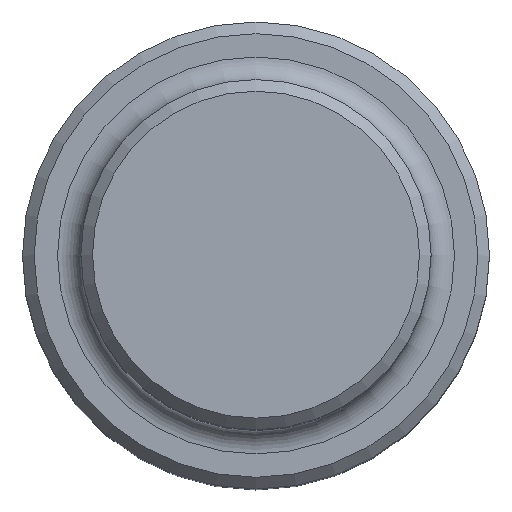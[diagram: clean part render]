
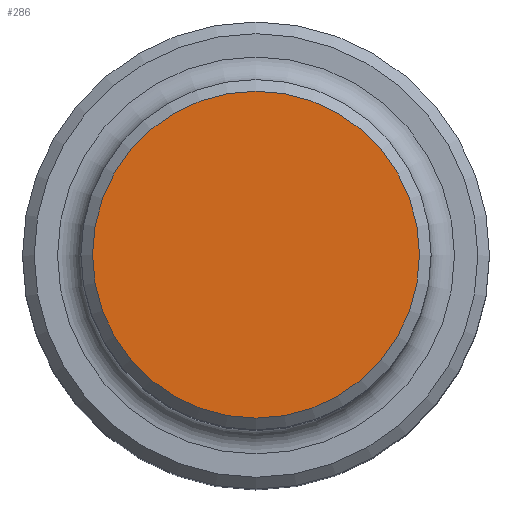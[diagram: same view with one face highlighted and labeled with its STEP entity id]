
A CAD part, top view. The second image highlights one B-rep face of the part: STEP entity #286.
In plain terms, the highlighted planar face has unit normal (0, 0, 1).
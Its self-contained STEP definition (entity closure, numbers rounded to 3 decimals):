
#266 = VERTEX_POINT('',#267);
#267 = CARTESIAN_POINT('',(14.,0.,120.));
#275 = EDGE_CURVE('',#266,#266,#276,.T.);
#276 = CIRCLE('',#277,14.);
#277 = AXIS2_PLACEMENT_3D('',#278,#279,#280);
#278 = CARTESIAN_POINT('',(0.,0.,120.));
#279 = DIRECTION('',(0.,0.,1.));
#280 = DIRECTION('',(1.,0.,-0.));
#286 = ADVANCED_FACE('',(#287),#290,.T.);
#287 = FACE_BOUND('',#288,.T.);
#288 = EDGE_LOOP('',(#289));
#289 = ORIENTED_EDGE('',*,*,#275,.T.);
#290 = PLANE('',#291);
#291 = AXIS2_PLACEMENT_3D('',#292,#293,#294);
#292 = CARTESIAN_POINT('',(0.,0.,120.));
#293 = DIRECTION('',(0.,0.,1.));
#294 = DIRECTION('',(1.,0.,-0.));
